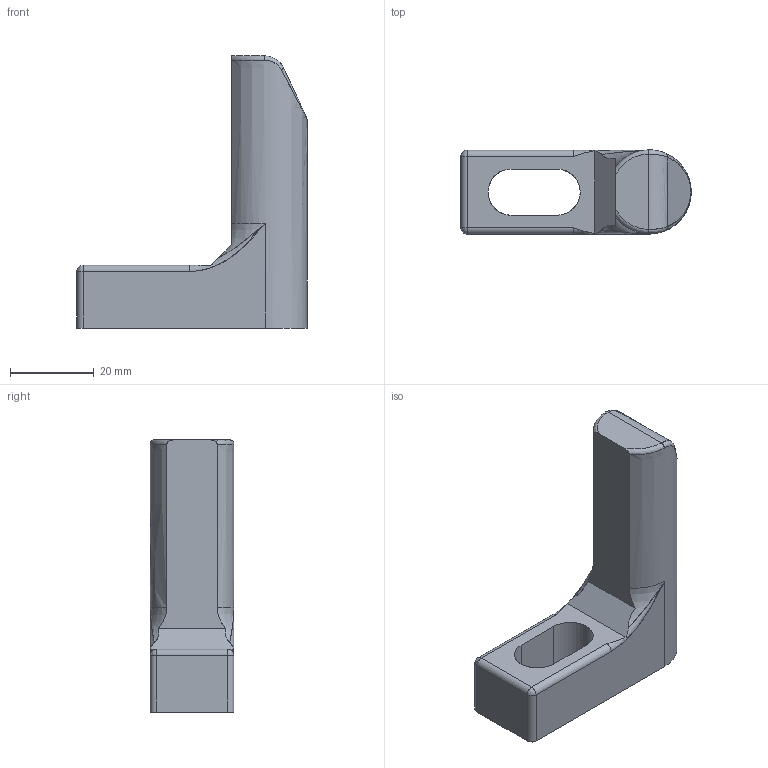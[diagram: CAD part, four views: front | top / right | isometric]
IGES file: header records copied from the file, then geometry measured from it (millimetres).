
Start section: START RECORD GO HERE.
Global section: file name: 704-2.igs; native system: DASSAULT SYSTEMES CATIA V5 R20 - www.3ds.com; preprocessor: CATIA Version 5 Release 20 ; author: Utente; organization: NB04-ASUS; date: 20201129.132631; units: millimetre
Bounding box: 55 x 20 x 65 mm (x, y, z)
Surface area: 7506.5 mm2 (no closed solid volume)
Topology: 0 solids, 0 shells, 35 faces, 178 edges, 174 vertices
Faces by surface type: revolution 18, plane 11, bspline 6
